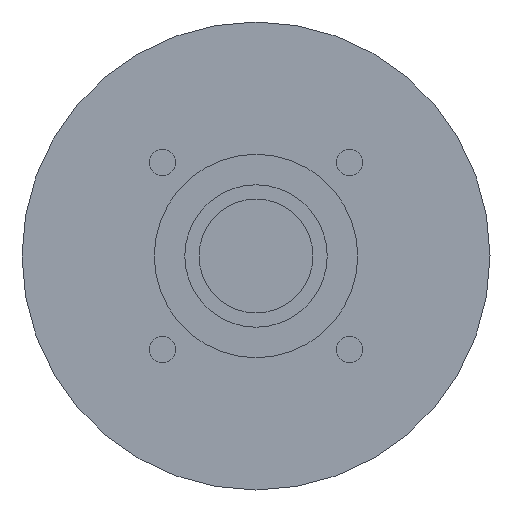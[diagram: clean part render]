
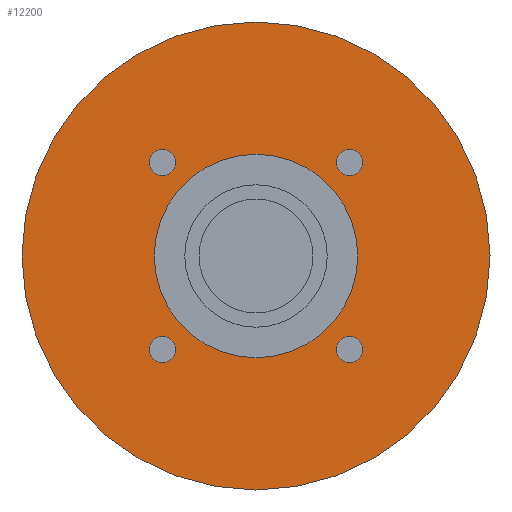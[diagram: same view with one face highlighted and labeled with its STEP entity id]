
A CAD part, left-side view. The second image highlights one B-rep face of the part: STEP entity #12200.
In plain terms, the highlighted planar face has unit normal (-1, 0, 0) as drawn and (0, 0, -1) by its records, which use the part's own axes.
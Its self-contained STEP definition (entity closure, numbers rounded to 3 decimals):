
#11030=CARTESIAN_POINT('',(57.5,0.,-65.601));
#11040=VERTEX_POINT('',#11030);
#11070=CARTESIAN_POINT('',(0.,0.,
-65.601));
#11080=DIRECTION('',(0.,0.,-1.));
#11090=DIRECTION('',(0.,-1.,0.));
#11100=AXIS2_PLACEMENT_3D('',#11070,#11080,#11090);
#11110=CIRCLE('',#11100,57.5);
#11120=CARTESIAN_POINT('',(0.,-57.5,-65.601));
#11130=VERTEX_POINT('',#11120);
#11140=EDGE_CURVE('',#11040,#11130,#11110,.T.);
#11160=CARTESIAN_POINT('',(-57.5,0.,-65.601));
#11170=VERTEX_POINT('',#11160);
#11180=EDGE_CURVE('',#11130,#11170,#11110,.T.);
#11300=CARTESIAN_POINT('',(0.,0.,
-65.601));
#11310=DIRECTION('',(0.,0.,-1.));
#11320=DIRECTION('',(1.,0.,0.));
#11330=AXIS2_PLACEMENT_3D('',#11300,#11310,#11320);
#11340=PLANE('',#11330);
#11350=CARTESIAN_POINT('',(22.981,22.981,-65.601));
#11360=DIRECTION('',(0.,0.,-1.));
#11370=DIRECTION('',(0.,1.,0.));
#11380=AXIS2_PLACEMENT_3D('',#11350,#11360,#11370);
#11390=CIRCLE('',#11380,3.25);
#11400=CARTESIAN_POINT('',(22.981,26.231,-65.601));
#11410=VERTEX_POINT('',#11400);
#11420=CARTESIAN_POINT('',(22.981,19.731,-65.601));
#11430=VERTEX_POINT('',#11420);
#11440=EDGE_CURVE('',#11410,#11430,#11390,.T.);
#11450=ORIENTED_EDGE('',*,*,#11440,.F.);
#11460=EDGE_CURVE('',#11430,#11410,#11390,.T.);
#11470=ORIENTED_EDGE('',*,*,#11460,.F.);
#11480=EDGE_LOOP('',(#11470,#11450));
#11490=FACE_BOUND('',#11480,.T.);
#11500=CARTESIAN_POINT('',(-22.981,22.981,-65.601));
#11510=DIRECTION('',(0.,0.,-1.));
#11520=DIRECTION('',(-1.,0.,0.));
#11530=AXIS2_PLACEMENT_3D('',#11500,#11510,#11520);
#11540=CIRCLE('',#11530,3.25);
#11550=CARTESIAN_POINT('',(-26.231,22.981,-65.601));
#11560=VERTEX_POINT('',#11550);
#11570=CARTESIAN_POINT('',(-19.731,22.981,-65.601));
#11580=VERTEX_POINT('',#11570);
#11590=EDGE_CURVE('',#11560,#11580,#11540,.T.);
#11600=ORIENTED_EDGE('',*,*,#11590,.F.);
#11610=EDGE_CURVE('',#11580,#11560,#11540,.T.);
#11620=ORIENTED_EDGE('',*,*,#11610,.F.);
#11630=EDGE_LOOP('',(#11620,#11600));
#11640=FACE_BOUND('',#11630,.T.);
#11650=CARTESIAN_POINT('',(-22.981,-22.981,-65.601))
;
#11660=DIRECTION('',(0.,0.,-1.));
#11670=DIRECTION('',(0.,-1.,0.));
#11680=AXIS2_PLACEMENT_3D('',#11650,#11660,#11670);
#11690=CIRCLE('',#11680,3.25);
#11700=CARTESIAN_POINT('',(-22.981,-26.231,-65.601))
;
#11710=VERTEX_POINT('',#11700);
#11720=CARTESIAN_POINT('',(-22.981,-19.731,-65.601))
;
#11730=VERTEX_POINT('',#11720);
#11740=EDGE_CURVE('',#11710,#11730,#11690,.T.);
#11750=ORIENTED_EDGE('',*,*,#11740,.F.);
#11760=EDGE_CURVE('',#11730,#11710,#11690,.T.);
#11770=ORIENTED_EDGE('',*,*,#11760,.F.);
#11780=EDGE_LOOP('',(#11770,#11750));
#11790=FACE_BOUND('',#11780,.T.);
#11800=CARTESIAN_POINT('',(0.,0.,
-65.601));
#11810=DIRECTION('',(0.,0.,1.));
#11820=DIRECTION('',(0.,1.,0.));
#11830=AXIS2_PLACEMENT_3D('',#11800,#11810,#11820);
#11840=CIRCLE('',#11830,25.);
#11850=CARTESIAN_POINT('',(-25.,0.,-65.601));
#11860=VERTEX_POINT('',#11850);
#11870=CARTESIAN_POINT('',(25.,0.,-65.601));
#11880=VERTEX_POINT('',#11870);
#11890=EDGE_CURVE('',#11860,#11880,#11840,.T.);
#11900=ORIENTED_EDGE('',*,*,#11890,.T.);
#11910=CARTESIAN_POINT('',(0.,25.,-65.601));
#11920=VERTEX_POINT('',#11910);
#11930=EDGE_CURVE('',#11920,#11860,#11840,.T.);
#11940=ORIENTED_EDGE('',*,*,#11930,.T.);
#11950=EDGE_CURVE('',#11880,#11920,#11840,.T.);
#11960=ORIENTED_EDGE('',*,*,#11950,.T.);
#11970=EDGE_LOOP('',(#11960,#11940,#11900));
#11980=FACE_BOUND('',#11970,.T.);
#11990=CARTESIAN_POINT('',(22.981,-22.981,-65.601));
#12000=DIRECTION('',(0.,0.,-1.));
#12010=DIRECTION('',(1.,0.,0.));
#12020=AXIS2_PLACEMENT_3D('',#11990,#12000,#12010);
#12030=CIRCLE('',#12020,3.25);
#12040=CARTESIAN_POINT('',(26.231,-22.981,-65.601));
#12050=VERTEX_POINT('',#12040);
#12060=CARTESIAN_POINT('',(19.731,-22.981,-65.601));
#12070=VERTEX_POINT('',#12060);
#12080=EDGE_CURVE('',#12050,#12070,#12030,.T.);
#12090=ORIENTED_EDGE('',*,*,#12080,.F.);
#12100=EDGE_CURVE('',#12070,#12050,#12030,.T.);
#12110=ORIENTED_EDGE('',*,*,#12100,.F.);
#12120=EDGE_LOOP('',(#12110,#12090));
#12130=FACE_BOUND('',#12120,.T.);
#12140=EDGE_CURVE('',#11170,#11040,#11110,.T.);
#12150=ORIENTED_EDGE('',*,*,#12140,.T.);
#12160=ORIENTED_EDGE('',*,*,#11180,.T.);
#12170=ORIENTED_EDGE('',*,*,#11140,.T.);
#12180=EDGE_LOOP('',(#12170,#12160,#12150));
#12190=FACE_OUTER_BOUND('',#12180,.T.);
#12200=ADVANCED_FACE('',(#11490,#11640,#11790,#11980,#12130,#12190),
#11340,.T.);
